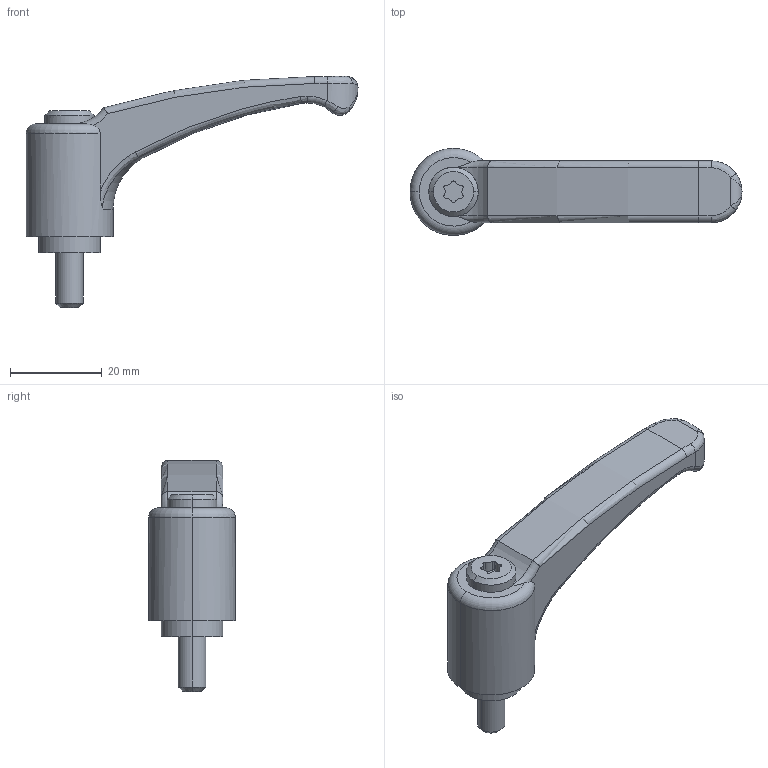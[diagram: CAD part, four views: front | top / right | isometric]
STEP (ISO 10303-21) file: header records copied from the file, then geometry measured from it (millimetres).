
FILE_DESCRIPTION (( 'STEP AP203' ), '1' );
FILE_NAME ('eala63ax12.STEP', '2021-10-25T01:42:29', ( '' ), ( '' ), 'SwSTEP 2.0', 'SolidWorks 2020', '' );
FILE_SCHEMA (( 'CONFIG_CONTROL_DESIGN' ));
Length unit declared in the file: millimetre
Products named in the file (1): eala63ax12
Bounding box: 72.5 x 19 x 50.5 mm (x, y, z)
Volume: 14724.9 mm3; surface area: 4740.9 mm2
Topology: 1 solids, 1 shells, 77 faces, 189 edges, 118 vertices
Faces by surface type: cylinder 32, torus 16, bspline 14, plane 11, cone 4
Entity records: 3303 total; most frequent: CARTESIAN_POINT 1507, ORIENTED_EDGE 378, DIRECTION 350, EDGE_CURVE 189, AXIS2_PLACEMENT_3D 155, VERTEX_POINT 118, CIRCLE 91, EDGE_LOOP 81
